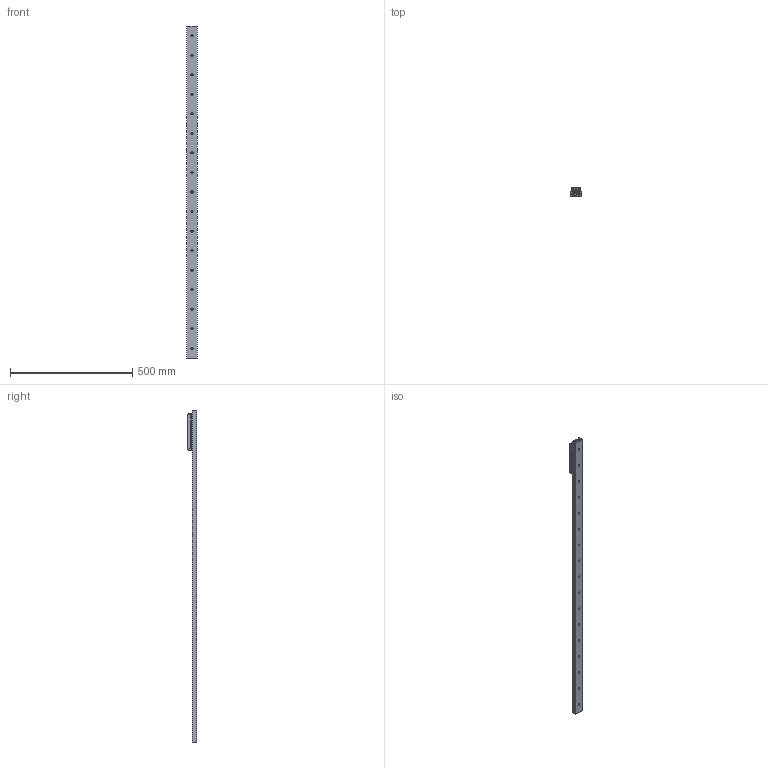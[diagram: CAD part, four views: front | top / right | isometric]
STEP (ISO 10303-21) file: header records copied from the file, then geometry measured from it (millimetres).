
FILE_DESCRIPTION( ( 'STEP AP214' ), '1' );
FILE_NAME( 'p:/temp/worker_34/temp/exporttempdir_3788_112_4z98u/format_1/TGV-01360_1_RV43G-3.stp', '2021-06-09T19:30:52', ( 'License CC BY-ND 4.0' ), ( 'CADENAS' ), ' ', 'PARTsolutions', ' ' );
FILE_SCHEMA( ( 'AUTOMOTIVE_DESIGN { 1 0 10303 214 1 1 1 1 }' ) );
Length unit declared in the file: millimetre
Products named in the file (6): TGV-01360/1/RV43G-3; _TGV43-1360-(3-1); _RVG43-3-slider; _RGNV43R; _RGAV43R; _WR43G-01
Assembly tree (7 placements, depth 2):
  TGV-01360/1/RV43G-3
    _TGV43-1360-(3-1)
    _RVG43-3-slider
    _RGNV43R  x2
    _RGAV43R
    _WR43G-01  x2
Bounding box: 43 x 37 x 1360 mm (x, y, z)
Volume: 618840.1 mm3; surface area: 248271.6 mm2
Topology: 7 solids, 7 shells, 1075 faces, 2809 edges, 1830 vertices
Faces by surface type: plane 663, cylinder 313, cone 56, bspline 34, torus 9
Full cylindrical faces by diameter (mm): 1.76 x4, 3 x8, 6 x4, 6.647 x4, 6.8 x3, 8 x3, 8.5 x17, 11 x11, 15 x6, 15.5 x1, 18.98 x2, 19 x1, 31.4 x6
Entity records: 25683 total; most frequent: CARTESIAN_POINT 4062, DIRECTION 3437, ORIENTED_EDGE 3166, EDGE_CURVE 1583, AXIS2_PLACEMENT_3D 1315, VERTEX_POINT 1102, EDGE_LOOP 899, LINE 807
